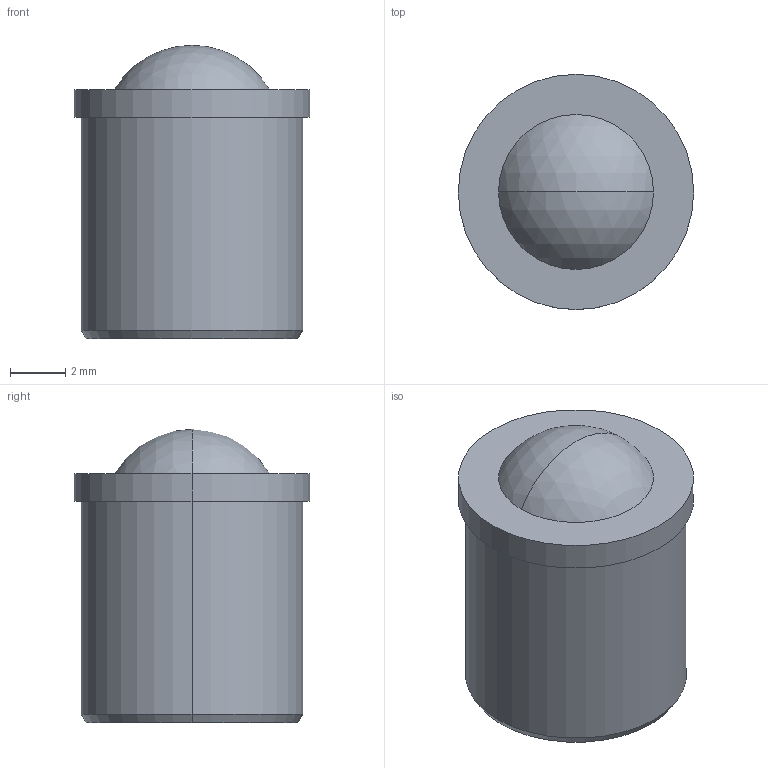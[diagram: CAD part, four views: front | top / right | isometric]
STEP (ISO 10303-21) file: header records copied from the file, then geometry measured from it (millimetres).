
FILE_DESCRIPTION (( 'STEP AP203' ), '1' );
FILE_NAME ('sbpj8.STEP', '2021-10-25T04:04:13', ( '' ), ( '' ), 'SwSTEP 2.0', 'SolidWorks 2020', '' );
FILE_SCHEMA (( 'CONFIG_CONTROL_DESIGN' ));
Length unit declared in the file: millimetre
Products named in the file (1): sbpj8
Bounding box: 8.5 x 8.5 x 10.6 mm (x, y, z)
Volume: 480.1 mm3; surface area: 346 mm2
Topology: 1 solids, 1 shells, 11 faces, 20 edges, 13 vertices
Faces by surface type: cylinder 4, plane 3, sphere 2, cone 2
Entity records: 357 total; most frequent: DIRECTION 58, CARTESIAN_POINT 45, ORIENTED_EDGE 40, AXIS2_PLACEMENT_3D 26, EDGE_CURVE 20, CIRCLE 14, VERTEX_POINT 13, EDGE_LOOP 13
